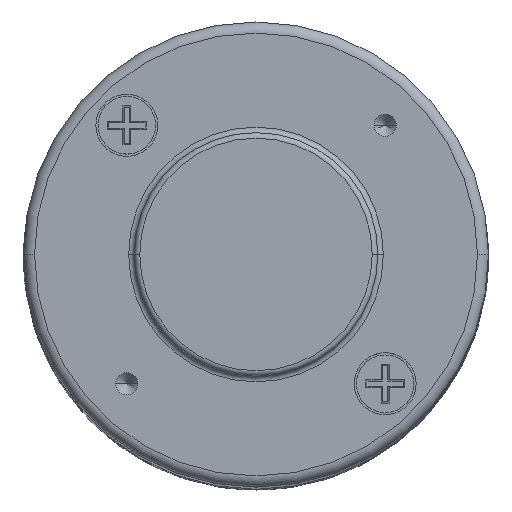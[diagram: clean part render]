
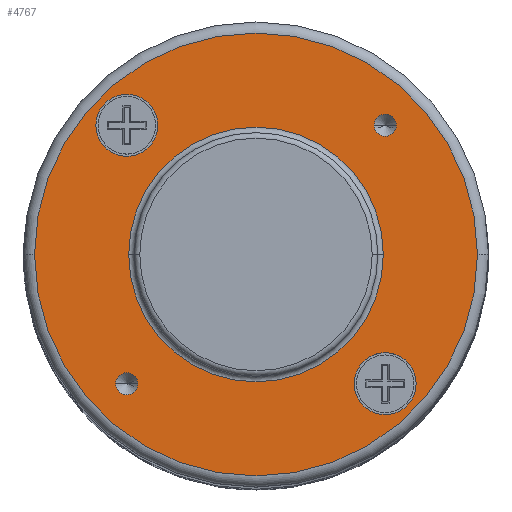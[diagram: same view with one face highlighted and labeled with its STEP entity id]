
A CAD part, top view. The second image highlights one B-rep face of the part: STEP entity #4767.
In plain terms, the highlighted planar face has unit normal (0, 0, 1).
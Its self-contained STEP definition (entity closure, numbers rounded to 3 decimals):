
#32 = EDGE_LOOP ( 'NONE', ( #6426, #4124 ) ) ;
#36 = VERTEX_POINT ( 'NONE', #1143 ) ;
#100 = AXIS2_PLACEMENT_3D ( 'NONE', #4178, #2608, #3609 ) ;
#201 = CIRCLE ( 'NONE', #4649, 2.8 ) ;
#209 = VERTEX_POINT ( 'NONE', #2915 ) ;
#240 = EDGE_CURVE ( 'NONE', #2308, #6334, #2108, .T. ) ;
#271 = DIRECTION ( 'NONE',  ( 0., 0., 1. ) ) ;
#297 = CIRCLE ( 'NONE', #408, 1. ) ;
#361 = EDGE_LOOP ( 'NONE', ( #3422, #4607 ) ) ;
#408 = AXIS2_PLACEMENT_3D ( 'NONE', #4910, #271, #3400 ) ;
#425 = DIRECTION ( 'NONE',  ( 1., 0., 0. ) ) ;
#533 = CARTESIAN_POINT ( 'NONE',  ( -11.667, 11.667, 5.1 ) ) ;
#551 = FACE_BOUND ( 'NONE', #361, .T. ) ;
#560 = CARTESIAN_POINT ( 'NONE',  ( 20., 0., 5.1 ) ) ;
#633 = EDGE_CURVE ( 'NONE', #36, #5275, #1874, .T. ) ;
#751 = EDGE_CURVE ( 'NONE', #5275, #36, #2745, .T. ) ;
#930 = DIRECTION ( 'NONE',  ( -1., 0., 0. ) ) ;
#957 = CIRCLE ( 'NONE', #2812, 11.5 ) ;
#1110 = VERTEX_POINT ( 'NONE', #4323 ) ;
#1111 = CARTESIAN_POINT ( 'NONE',  ( 11.667, 11.667, 5.1 ) ) ;
#1137 = DIRECTION ( 'NONE',  ( 0., 0., 1. ) ) ;
#1143 = CARTESIAN_POINT ( 'NONE',  ( 8.867, -11.667, 5.1 ) ) ;
#1193 = EDGE_CURVE ( 'NONE', #6645, #4662, #2324, .T. ) ;
#1196 = AXIS2_PLACEMENT_3D ( 'NONE', #4487, #2511, #4453 ) ;
#1198 = EDGE_LOOP ( 'NONE', ( #1410, #1318 ) ) ;
#1222 = EDGE_CURVE ( 'NONE', #4458, #1110, #3467, .T. ) ;
#1318 = ORIENTED_EDGE ( 'NONE', *, *, #1960, .T. ) ;
#1392 = VERTEX_POINT ( 'NONE', #1475 ) ;
#1410 = ORIENTED_EDGE ( 'NONE', *, *, #4027, .T. ) ;
#1446 = VERTEX_POINT ( 'NONE', #1544 ) ;
#1475 = CARTESIAN_POINT ( 'NONE',  ( -11.5, 0., 5.1 ) ) ;
#1476 = CARTESIAN_POINT ( 'NONE',  ( 11.667, -11.667, 5.1 ) ) ;
#1526 = EDGE_LOOP ( 'NONE', ( #5848, #4012 ) ) ;
#1544 = CARTESIAN_POINT ( 'NONE',  ( 11.5, 0., 5.1 ) ) ;
#1562 = EDGE_LOOP ( 'NONE', ( #5821, #3941 ) ) ;
#1644 = DIRECTION ( 'NONE',  ( 0., 0., -1. ) ) ;
#1754 = CIRCLE ( 'NONE', #3595, 11.5 ) ;
#1792 = DIRECTION ( 'NONE',  ( 0., 0., 1. ) ) ;
#1874 = CIRCLE ( 'NONE', #6274, 2.8 ) ;
#1888 = CIRCLE ( 'NONE', #5446, 20. ) ;
#1960 = EDGE_CURVE ( 'NONE', #1392, #1446, #1754, .T. ) ;
#2041 = DIRECTION ( 'NONE',  ( 1., 0., 0. ) ) ;
#2057 = CIRCLE ( 'NONE', #2493, 2.8 ) ;
#2093 = FACE_BOUND ( 'NONE', #1526, .T. ) ;
#2108 = CIRCLE ( 'NONE', #3088, 20. ) ;
#2128 = FACE_BOUND ( 'NONE', #32, .T. ) ;
#2308 = VERTEX_POINT ( 'NONE', #560 ) ;
#2324 = CIRCLE ( 'NONE', #3200, 1. ) ;
#2481 = DIRECTION ( 'NONE',  ( 0., 0., 1. ) ) ;
#2493 = AXIS2_PLACEMENT_3D ( 'NONE', #3384, #6360, #4894 ) ;
#2511 = DIRECTION ( 'NONE',  ( 0., 0., 1. ) ) ;
#2608 = DIRECTION ( 'NONE',  ( 0., 0., 1. ) ) ;
#2621 = DIRECTION ( 'NONE',  ( 0., 0., 1. ) ) ;
#2637 = FACE_BOUND ( 'NONE', #3880, .T. ) ;
#2745 = CIRCLE ( 'NONE', #5324, 2.8 ) ;
#2766 = EDGE_CURVE ( 'NONE', #6334, #2308, #1888, .T. ) ;
#2812 = AXIS2_PLACEMENT_3D ( 'NONE', #3036, #4972, #4001 ) ;
#2823 = DIRECTION ( 'NONE',  ( 1., 0., 0. ) ) ;
#2853 = DIRECTION ( 'NONE',  ( -1., 0., 0. ) ) ;
#2915 = CARTESIAN_POINT ( 'NONE',  ( -14.467, 11.667, 5.1 ) ) ;
#2987 = CARTESIAN_POINT ( 'NONE',  ( 0., 0., 5.1 ) ) ;
#3036 = CARTESIAN_POINT ( 'NONE',  ( 0., 0., 5.1 ) ) ;
#3088 = AXIS2_PLACEMENT_3D ( 'NONE', #2987, #2481, #425 ) ;
#3200 = AXIS2_PLACEMENT_3D ( 'NONE', #3278, #1137, #4852 ) ;
#3235 = DIRECTION ( 'NONE',  ( 1., 0., 0. ) ) ;
#3278 = CARTESIAN_POINT ( 'NONE',  ( -11.667, -11.667, 5.1 ) ) ;
#3306 = CARTESIAN_POINT ( 'NONE',  ( -8.867, 11.667, 5.1 ) ) ;
#3384 = CARTESIAN_POINT ( 'NONE',  ( -11.667, 11.667, 5.1 ) ) ;
#3400 = DIRECTION ( 'NONE',  ( 1., 0., 0. ) ) ;
#3422 = ORIENTED_EDGE ( 'NONE', *, *, #1222, .F. ) ;
#3449 = CARTESIAN_POINT ( 'NONE',  ( -12.667, -11.667, 5.1 ) ) ;
#3451 = VERTEX_POINT ( 'NONE', #3306 ) ;
#3467 = CIRCLE ( 'NONE', #1196, 1. ) ;
#3595 = AXIS2_PLACEMENT_3D ( 'NONE', #5883, #1644, #3235 ) ;
#3609 = DIRECTION ( 'NONE',  ( 1., 0., 0. ) ) ;
#3666 = AXIS2_PLACEMENT_3D ( 'NONE', #1111, #4330, #5811 ) ;
#3715 = ORIENTED_EDGE ( 'NONE', *, *, #3912, .F. ) ;
#3752 = EDGE_CURVE ( 'NONE', #1110, #4458, #6019, .T. ) ;
#3880 = EDGE_LOOP ( 'NONE', ( #3715, #4691 ) ) ;
#3912 = EDGE_CURVE ( 'NONE', #3451, #209, #2057, .T. ) ;
#3941 = ORIENTED_EDGE ( 'NONE', *, *, #2766, .T. ) ;
#4001 = DIRECTION ( 'NONE',  ( 1., 0., 0. ) ) ;
#4012 = ORIENTED_EDGE ( 'NONE', *, *, #633, .F. ) ;
#4027 = EDGE_CURVE ( 'NONE', #1446, #1392, #957, .T. ) ;
#4124 = ORIENTED_EDGE ( 'NONE', *, *, #1193, .F. ) ;
#4178 = CARTESIAN_POINT ( 'NONE',  ( 0., 0., 5.1 ) ) ;
#4271 = CARTESIAN_POINT ( 'NONE',  ( 0., 0., 5.1 ) ) ;
#4323 = CARTESIAN_POINT ( 'NONE',  ( 10.667, 11.667, 5.1 ) ) ;
#4330 = DIRECTION ( 'NONE',  ( 0., 0., 1. ) ) ;
#4377 = CARTESIAN_POINT ( 'NONE',  ( -20., 0., 5.1 ) ) ;
#4453 = DIRECTION ( 'NONE',  ( 1., 0., 0. ) ) ;
#4458 = VERTEX_POINT ( 'NONE', #4569 ) ;
#4487 = CARTESIAN_POINT ( 'NONE',  ( 11.667, 11.667, 5.1 ) ) ;
#4569 = CARTESIAN_POINT ( 'NONE',  ( 12.667, 11.667, 5.1 ) ) ;
#4578 = EDGE_CURVE ( 'NONE', #209, #3451, #201, .T. ) ;
#4607 = ORIENTED_EDGE ( 'NONE', *, *, #3752, .F. ) ;
#4649 = AXIS2_PLACEMENT_3D ( 'NONE', #533, #2621, #2041 ) ;
#4662 = VERTEX_POINT ( 'NONE', #5094 ) ;
#4687 = FACE_BOUND ( 'NONE', #1198, .T. ) ;
#4691 = ORIENTED_EDGE ( 'NONE', *, *, #4578, .F. ) ;
#4767 = ADVANCED_FACE ( 'NONE', ( #2128, #551, #2093, #2637, #5231, #4687 ), #5794, .T. ) ;
#4852 = DIRECTION ( 'NONE',  ( 1., 0., 0. ) ) ;
#4894 = DIRECTION ( 'NONE',  ( 1., 0., 0. ) ) ;
#4910 = CARTESIAN_POINT ( 'NONE',  ( -11.667, -11.667, 5.1 ) ) ;
#4972 = DIRECTION ( 'NONE',  ( 0., 0., -1. ) ) ;
#5094 = CARTESIAN_POINT ( 'NONE',  ( -10.667, -11.667, 5.1 ) ) ;
#5231 = FACE_OUTER_BOUND ( 'NONE', #1562, .T. ) ;
#5275 = VERTEX_POINT ( 'NONE', #6593 ) ;
#5324 = AXIS2_PLACEMENT_3D ( 'NONE', #5814, #1792, #2853 ) ;
#5446 = AXIS2_PLACEMENT_3D ( 'NONE', #4271, #6335, #2823 ) ;
#5495 = DIRECTION ( 'NONE',  ( 0., 0., 1. ) ) ;
#5794 = PLANE ( 'NONE',  #100 ) ;
#5811 = DIRECTION ( 'NONE',  ( 1., 0., 0. ) ) ;
#5814 = CARTESIAN_POINT ( 'NONE',  ( 11.667, -11.667, 5.1 ) ) ;
#5821 = ORIENTED_EDGE ( 'NONE', *, *, #240, .T. ) ;
#5848 = ORIENTED_EDGE ( 'NONE', *, *, #751, .F. ) ;
#5883 = CARTESIAN_POINT ( 'NONE',  ( 0., 0., 5.1 ) ) ;
#6019 = CIRCLE ( 'NONE', #3666, 1. ) ;
#6274 = AXIS2_PLACEMENT_3D ( 'NONE', #1476, #5495, #930 ) ;
#6334 = VERTEX_POINT ( 'NONE', #4377 ) ;
#6335 = DIRECTION ( 'NONE',  ( 0., 0., 1. ) ) ;
#6360 = DIRECTION ( 'NONE',  ( 0., 0., 1. ) ) ;
#6377 = EDGE_CURVE ( 'NONE', #4662, #6645, #297, .T. ) ;
#6426 = ORIENTED_EDGE ( 'NONE', *, *, #6377, .F. ) ;
#6593 = CARTESIAN_POINT ( 'NONE',  ( 14.467, -11.667, 5.1 ) ) ;
#6645 = VERTEX_POINT ( 'NONE', #3449 ) ;
